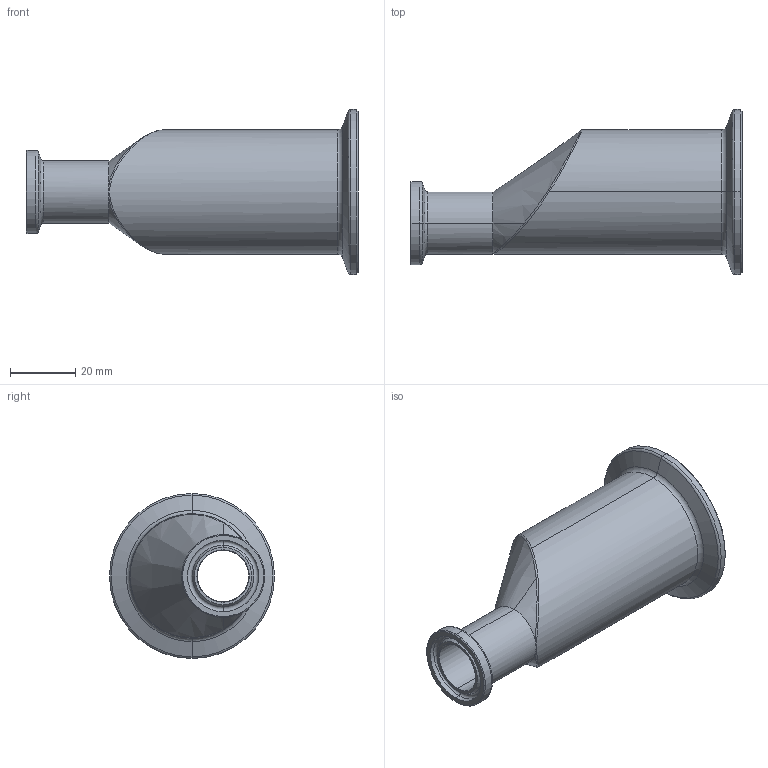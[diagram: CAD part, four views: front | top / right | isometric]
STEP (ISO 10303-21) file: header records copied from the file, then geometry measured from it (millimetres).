
FILE_DESCRIPTION (( 'STEP AP214' ), '1' );
FILE_NAME ('TEG32SCC6L1.5x.75-...STEP', '2016-06-01T12:51:25', ( 'eran' ), ( '' ), 'SwSTEP 2.0', 'SolidWorks 2016', '' );
FILE_SCHEMA (( 'AUTOMOTIVE_DESIGN' ));
Length unit declared in the file: millimetre
Products named in the file (1): TEG32SCC6L1.5x.75-..
Bounding box: 101.6 x 50.5 x 50.5 mm (x, y, z)
Volume: 51342 mm3; surface area: 19502.2 mm2
Topology: 1 solids, 1 shells, 70 faces, 150 edges, 82 vertices
Faces by surface type: cone 25, torus 21, cylinder 17, plane 4, bspline 3
Entity records: 2619 total; most frequent: CARTESIAN_POINT 1075, DIRECTION 352, ORIENTED_EDGE 296, AXIS2_PLACEMENT_3D 157, EDGE_CURVE 148, CIRCLE 89, VERTEX_POINT 82, EDGE_LOOP 74
